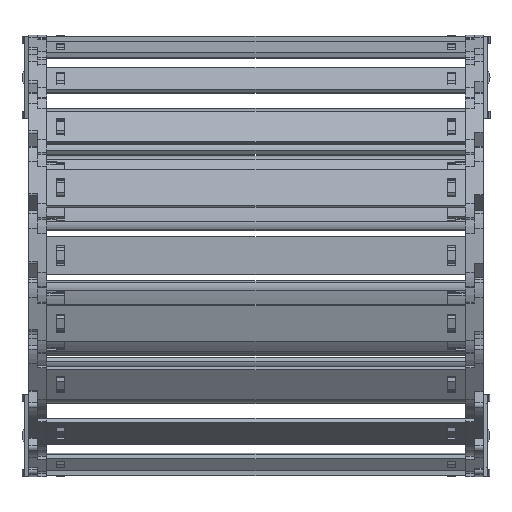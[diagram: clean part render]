
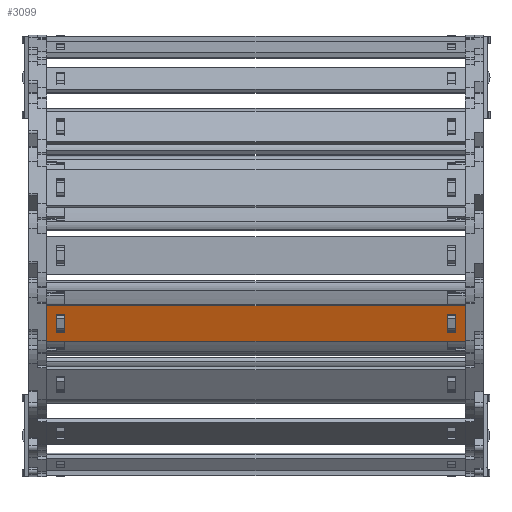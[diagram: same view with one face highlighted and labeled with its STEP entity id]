
A CAD part, top view. The second image highlights one B-rep face of the part: STEP entity #3099.
In plain terms, the highlighted planar face has unit normal (0, -0.309, 0.951) as drawn and (0, 1, 0) by its records, which use the part's own axes.
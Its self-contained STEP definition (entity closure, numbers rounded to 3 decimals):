
#2519=DIRECTION('',(0.,0.,1.));
#2520=VECTOR('',#2519,15.8);
#2521=CARTESIAN_POINT('',(161.24,1.5,-7.9));
#2522=LINE('',#2521,#2520);
#2523=DIRECTION('',(-1.,0.,0.));
#2524=VECTOR('',#2523,176.);
#2525=CARTESIAN_POINT('',(161.24,1.5,7.9));
#2526=LINE('',#2525,#2524);
#2527=DIRECTION('',(0.,0.,-1.));
#2528=VECTOR('',#2527,15.8);
#2529=CARTESIAN_POINT('',(-14.76,1.5,7.9));
#2530=LINE('',#2529,#2528);
#2531=DIRECTION('',(1.,0.,0.));
#2532=VECTOR('',#2531,3.648);
#2533=CARTESIAN_POINT('',(153.622,1.5,4.075));
#2534=LINE('',#2533,#2532);
#2535=DIRECTION('',(0.,0.,-1.));
#2536=VECTOR('',#2535,8.15);
#2537=CARTESIAN_POINT('',(157.27,1.5,4.075));
#2538=LINE('',#2537,#2536);
#2539=DIRECTION('',(-1.,0.,0.));
#2540=VECTOR('',#2539,3.648);
#2541=CARTESIAN_POINT('',(157.27,1.5,-4.075));
#2542=LINE('',#2541,#2540);
#2543=DIRECTION('',(0.,0.,-1.));
#2544=VECTOR('',#2543,8.15);
#2545=CARTESIAN_POINT('',(-7.142,1.5,4.075));
#2546=LINE('',#2545,#2544);
#2547=DIRECTION('',(-1.,0.,0.));
#2548=VECTOR('',#2547,3.648);
#2549=CARTESIAN_POINT('',(-7.142,1.5,-4.075));
#2550=LINE('',#2549,#2548);
#2551=DIRECTION('',(0.,0.,1.));
#2552=VECTOR('',#2551,8.15);
#2553=CARTESIAN_POINT('',(-10.79,1.5,-4.075));
#2554=LINE('',#2553,#2552);
#2555=DIRECTION('',(1.,0.,0.));
#2556=VECTOR('',#2555,3.648);
#2557=CARTESIAN_POINT('',(-10.79,1.5,4.075));
#2558=LINE('',#2557,#2556);
#2563=DIRECTION('',(-1.,0.,0.));
#2564=VECTOR('',#2563,176.);
#2565=CARTESIAN_POINT('',(161.24,1.5,-7.9));
#2566=LINE('',#2565,#2564);
#2684=DIRECTION('',(0.,0.,-1.));
#2685=VECTOR('',#2684,8.15);
#2686=CARTESIAN_POINT('',(153.622,1.5,4.075));
#2687=LINE('',#2686,#2685);
#2869=CARTESIAN_POINT('',(157.27,1.5,4.075));
#2870=VERTEX_POINT('',#2869);
#2871=CARTESIAN_POINT('',(153.622,1.5,4.075));
#2872=VERTEX_POINT('',#2871);
#2913=CARTESIAN_POINT('',(153.622,1.5,-4.075));
#2914=VERTEX_POINT('',#2913);
#2915=CARTESIAN_POINT('',(157.27,1.5,-4.075));
#2916=VERTEX_POINT('',#2915);
#2917=CARTESIAN_POINT('',(161.24,1.5,7.9));
#2919=VERTEX_POINT('',#2917);
#2921=CARTESIAN_POINT('',(161.24,1.5,-7.9));
#2922=VERTEX_POINT('',#2921);
#2945=CARTESIAN_POINT('',(-7.142,1.5,4.075));
#2946=CARTESIAN_POINT('',(-7.142,1.5,-4.075));
#2947=VERTEX_POINT('',#2945);
#2948=VERTEX_POINT('',#2946);
#2949=CARTESIAN_POINT('',(-10.79,1.5,-4.075));
#2950=VERTEX_POINT('',#2949);
#2951=CARTESIAN_POINT('',(-10.79,1.5,4.075));
#2952=VERTEX_POINT('',#2951);
#2953=CARTESIAN_POINT('',(-14.76,1.5,7.9));
#2954=VERTEX_POINT('',#2953);
#2957=CARTESIAN_POINT('',(-14.76,1.5,-7.9));
#2958=VERTEX_POINT('',#2957);
#3068=CARTESIAN_POINT('',(192.98,1.5,10.061));
#3069=DIRECTION('',(0.,-1.,0.));
#3070=DIRECTION('',(0.,0.,-1.));
#3071=AXIS2_PLACEMENT_3D('',#3068,#3069,#3070);
#3072=PLANE('',#3071);
#3073=ORIENTED_EDGE('',*,*,#3007,.T.);
#3074=ORIENTED_EDGE('',*,*,#3033,.T.);
#3075=ORIENTED_EDGE('',*,*,#3046,.T.);
#3077=ORIENTED_EDGE('',*,*,#3076,.F.);
#3078=EDGE_LOOP('',(#3073,#3074,#3075,#3077));
#3079=FACE_OUTER_BOUND('',#3078,.F.);
#3081=ORIENTED_EDGE('',*,*,#3080,.F.);
#3082=ORIENTED_EDGE('',*,*,#2970,.T.);
#3084=ORIENTED_EDGE('',*,*,#3083,.T.);
#3086=ORIENTED_EDGE('',*,*,#3085,.T.);
#3087=EDGE_LOOP('',(#3081,#3082,#3084,#3086));
#3088=FACE_BOUND('',#3087,.F.);
#3090=ORIENTED_EDGE('',*,*,#3089,.T.);
#3092=ORIENTED_EDGE('',*,*,#3091,.T.);
#3094=ORIENTED_EDGE('',*,*,#3093,.T.);
#3096=ORIENTED_EDGE('',*,*,#3095,.T.);
#3097=EDGE_LOOP('',(#3090,#3092,#3094,#3096));
#3098=FACE_BOUND('',#3097,.F.);
#3099=ADVANCED_FACE('',(#3079,#3088,#3098),#3072,.F.);
#2970=EDGE_CURVE('',#2872,#2870,#2534,.T.);
#3007=EDGE_CURVE('',#2922,#2919,#2522,.T.);
#3033=EDGE_CURVE('',#2919,#2954,#2526,.T.);
#3046=EDGE_CURVE('',#2954,#2958,#2530,.T.);
#3076=EDGE_CURVE('',#2922,#2958,#2566,.T.);
#3080=EDGE_CURVE('',#2872,#2914,#2687,.T.);
#3083=EDGE_CURVE('',#2870,#2916,#2538,.T.);
#3085=EDGE_CURVE('',#2916,#2914,#2542,.T.);
#3089=EDGE_CURVE('',#2947,#2948,#2546,.T.);
#3091=EDGE_CURVE('',#2948,#2950,#2550,.T.);
#3093=EDGE_CURVE('',#2950,#2952,#2554,.T.);
#3095=EDGE_CURVE('',#2952,#2947,#2558,.T.);
